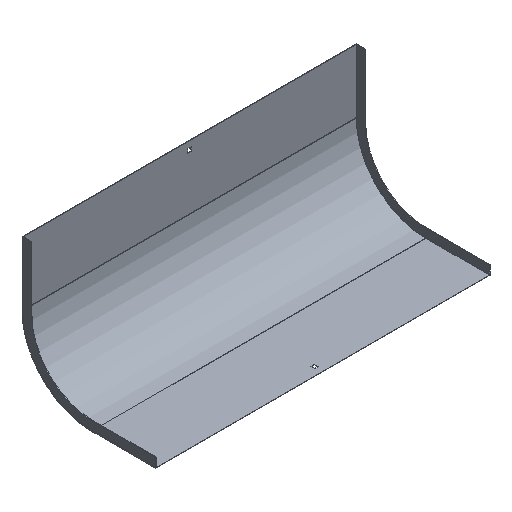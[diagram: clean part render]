
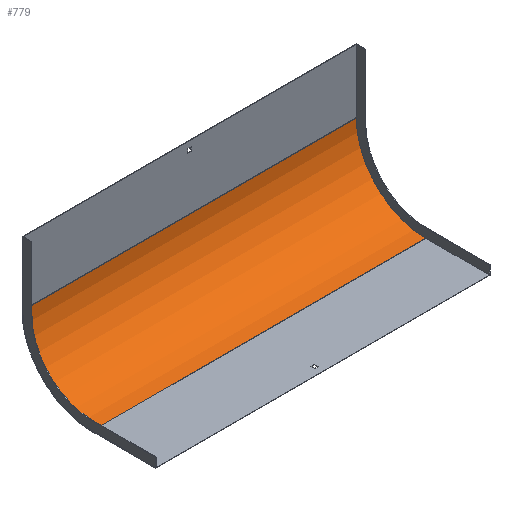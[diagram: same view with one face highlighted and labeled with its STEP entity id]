
A CAD part, isometric view. The second image highlights one B-rep face of the part: STEP entity #779.
In plain terms, the highlighted cylindrical face has radius 125 mm (diameter 250 mm), a partial arc.
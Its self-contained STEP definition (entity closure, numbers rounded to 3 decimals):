
#44 = EDGE_LOOP ( 'NONE', ( #862, #329, #520, #498 ) ) ;
#78 = CARTESIAN_POINT ( 'NONE',  ( -300., -126., -240. ) ) ;
#90 = VERTEX_POINT ( 'NONE', #808 ) ;
#99 = EDGE_CURVE ( 'NONE', #825, #585, #298, .T. ) ;
#133 = LINE ( 'NONE', #139, #488 ) ;
#139 = CARTESIAN_POINT ( 'NONE',  ( 301., -1., -115. ) ) ;
#149 = LINE ( 'NONE', #419, #507 ) ;
#152 = CARTESIAN_POINT ( 'NONE',  ( -300., -126., -115. ) ) ;
#160 = AXIS2_PLACEMENT_3D ( 'NONE', #788, #320, #511 ) ;
#166 = EDGE_CURVE ( 'NONE', #654, #825, #149, .T. ) ;
#184 = CARTESIAN_POINT ( 'NONE',  ( -300., -1., -115. ) ) ;
#279 = DIRECTION ( 'NONE',  ( -1., 0., 0. ) ) ;
#283 = DIRECTION ( 'NONE',  ( -1., 0., 0. ) ) ;
#284 = DIRECTION ( 'NONE',  ( -1., 0., 0. ) ) ;
#298 = CIRCLE ( 'NONE', #769, 125. ) ;
#314 = AXIS2_PLACEMENT_3D ( 'NONE', #558, #284, #548 ) ;
#320 = DIRECTION ( 'NONE',  ( 1., 0., 0. ) ) ;
#329 = ORIENTED_EDGE ( 'NONE', *, *, #166, .F. ) ;
#391 = CARTESIAN_POINT ( 'NONE',  ( 300., -126., -240. ) ) ;
#419 = CARTESIAN_POINT ( 'NONE',  ( 301., -126., -240. ) ) ;
#423 = DIRECTION ( 'NONE',  ( 1., 0., 0. ) ) ;
#488 = VECTOR ( 'NONE', #279, 1000. ) ;
#491 = CIRCLE ( 'NONE', #160, 125. ) ;
#498 = ORIENTED_EDGE ( 'NONE', *, *, #746, .T. ) ;
#507 = VECTOR ( 'NONE', #283, 1000. ) ;
#511 = DIRECTION ( 'NONE',  ( 0., 0., 1. ) ) ;
#520 = ORIENTED_EDGE ( 'NONE', *, *, #599, .T. ) ;
#548 = DIRECTION ( 'NONE',  ( 0., 0., 1. ) ) ;
#558 = CARTESIAN_POINT ( 'NONE',  ( 301., -126., -115. ) ) ;
#585 = VERTEX_POINT ( 'NONE', #184 ) ;
#594 = CYLINDRICAL_SURFACE ( 'NONE', #314, 125. ) ;
#599 = EDGE_CURVE ( 'NONE', #654, #90, #491, .T. ) ;
#654 = VERTEX_POINT ( 'NONE', #391 ) ;
#658 = FACE_OUTER_BOUND ( 'NONE', #44, .T. ) ;
#746 = EDGE_CURVE ( 'NONE', #90, #585, #133, .T. ) ;
#769 = AXIS2_PLACEMENT_3D ( 'NONE', #152, #423, #815 ) ;
#779 = ADVANCED_FACE ( 'NONE', ( #658 ), #594, .F. ) ;
#788 = CARTESIAN_POINT ( 'NONE',  ( 300., -126., -115. ) ) ;
#808 = CARTESIAN_POINT ( 'NONE',  ( 300., -1., -115. ) ) ;
#815 = DIRECTION ( 'NONE',  ( 0., 0., 1. ) ) ;
#825 = VERTEX_POINT ( 'NONE', #78 ) ;
#862 = ORIENTED_EDGE ( 'NONE', *, *, #99, .F. ) ;
